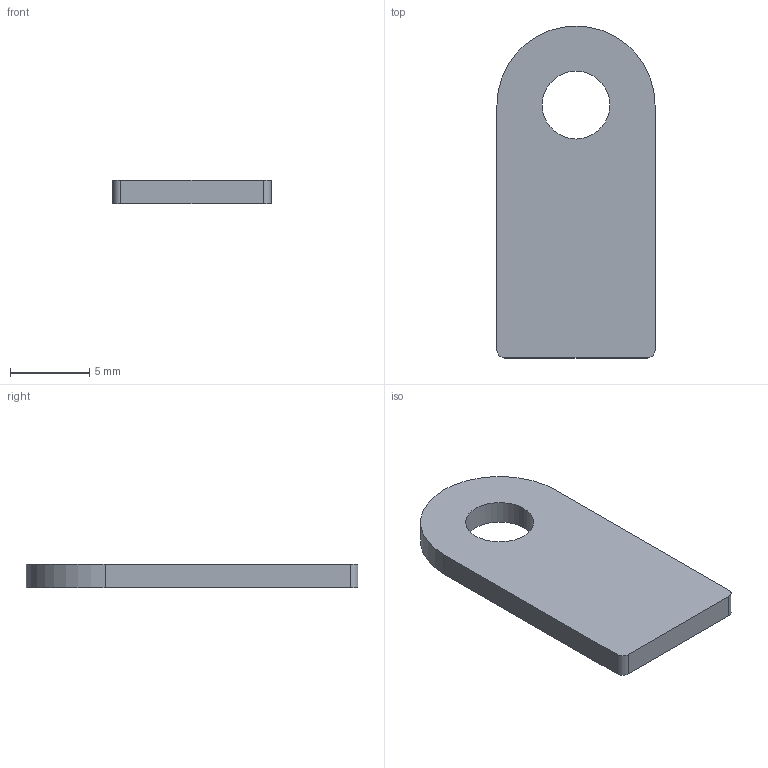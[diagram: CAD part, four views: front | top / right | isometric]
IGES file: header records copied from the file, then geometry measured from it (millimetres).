
Start section: START RECORD GO HERE.
Global section: file name: 20M_EL_09014  (bracket Front box).igs; native system: IBM CATIA IGES - CATIA Version 5 Release 19 ; preprocessor: CATIA Version 5 Release 19 ; author: lecoc; organization: PC-COCO; date: 20200123.185853; units: millimetre
Bounding box: 10 x 21 x 1.5 mm (x, y, z)
Surface area: 475.5 mm2 (no closed solid volume)
Topology: 0 solids, 0 shells, 10 faces, 48 edges, 48 vertices
Faces by surface type: revolution 5, plane 5
